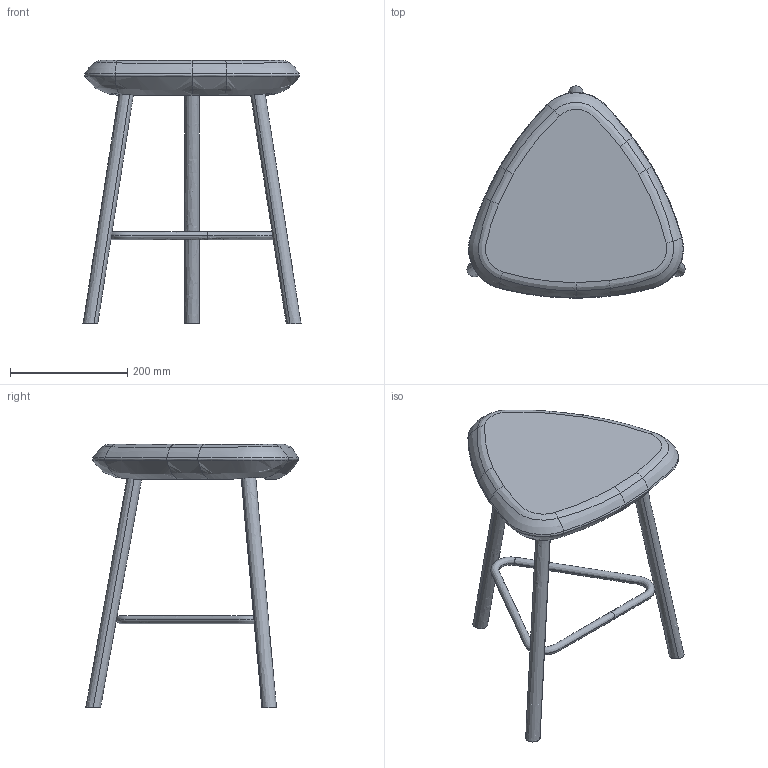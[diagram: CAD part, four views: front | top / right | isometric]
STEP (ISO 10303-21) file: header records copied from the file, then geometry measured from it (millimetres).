
FILE_DESCRIPTION(/* description */ (''),/* implementation_level */ '2;1');
FILE_NAME(/* name */ 'Pick base metallo h45',/* time_stamp */ '2016-11-10T12:15:04+01:00',/* author */ (''),/* organization */ (''),/* preprocessor_version */ 'ST-DEVELOPER v10',/* originating_system */ '',/* authorisation */ '');
FILE_SCHEMA (('CONFIG_CONTROL_DESIGN'));
Length unit declared in the file: millimetre
Products named in the file (1): 1
Bounding box: 372 x 362.66 x 449 mm (x, y, z)
Volume: 4635981.7 mm3; surface area: 458400.9 mm2
Topology: 6 solids, 6 shells, 75 faces, 155 edges, 90 vertices
Faces by surface type: bspline 64, plane 11
Entity records: 24984 total; most frequent: CARTESIAN_POINT 24012, ORIENTED_EDGE 310, EDGE_CURVE 155, VERTEX_POINT 90, ADVANCED_FACE 75, FACE_OUTER_BOUND 75, EDGE_LOOP 75, B_SPLINE_CURVE_WITH_KNOTS 50
